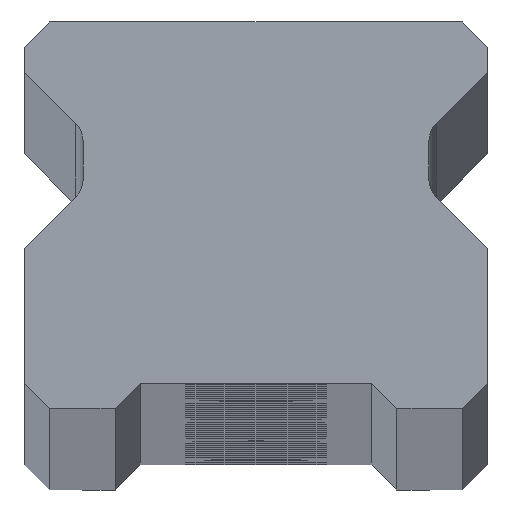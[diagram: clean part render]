
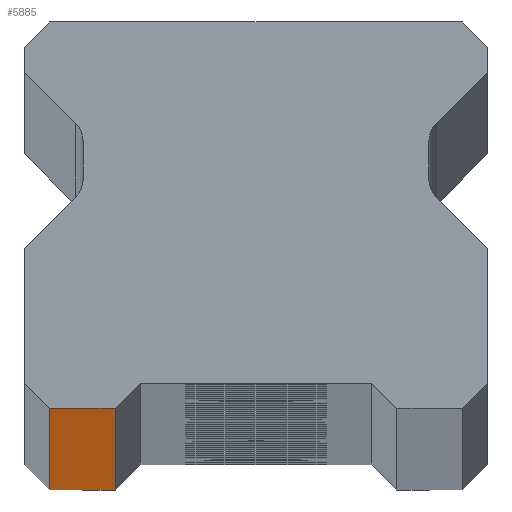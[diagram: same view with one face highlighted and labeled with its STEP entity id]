
A CAD part, top view. The second image highlights one B-rep face of the part: STEP entity #5885.
In plain terms, the highlighted planar face has unit normal (0, -1, 0).
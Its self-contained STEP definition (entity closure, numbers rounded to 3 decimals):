
#81 = EDGE_CURVE ( 'NONE', #5162, #5765, #6331, .T. ) ;
#205 = LINE ( 'NONE', #6158, #4273 ) ;
#389 = LINE ( 'NONE', #6592, #5724 ) ;
#837 = FACE_OUTER_BOUND ( 'NONE', #3946, .T. ) ;
#1169 = DIRECTION ( 'NONE',  ( 0., 0., -1. ) ) ;
#1484 = DIRECTION ( 'NONE',  ( 1., 0., 0. ) ) ;
#1501 = CARTESIAN_POINT ( 'NONE',  ( 11.5, 0., -1160. ) ) ;
#1590 = ORIENTED_EDGE ( 'NONE', *, *, #1768, .T. ) ;
#1753 = CARTESIAN_POINT ( 'NONE',  ( 11.5, 0., 1160. ) ) ;
#1768 = EDGE_CURVE ( 'NONE', #6890, #5765, #389, .T. ) ;
#1905 = CARTESIAN_POINT ( 'NONE',  ( -7., 0., -1160. ) ) ;
#2038 = ORIENTED_EDGE ( 'NONE', *, *, #81, .F. ) ;
#2625 = CARTESIAN_POINT ( 'NONE',  ( -7., 0., 1160. ) ) ;
#2850 = DIRECTION ( 'NONE',  ( 1., 0., 0. ) ) ;
#2947 = EDGE_CURVE ( 'NONE', #5162, #2967, #205, .T. ) ;
#2967 = VERTEX_POINT ( 'NONE', #3193 ) ;
#3027 = ORIENTED_EDGE ( 'NONE', *, *, #5022, .T. ) ;
#3193 = CARTESIAN_POINT ( 'NONE',  ( -10.25, 0., -1160. ) ) ;
#3668 = VECTOR ( 'NONE', #1484, 1000. ) ;
#3898 = DIRECTION ( 'NONE',  ( -1., 0., 0. ) ) ;
#3946 = EDGE_LOOP ( 'NONE', ( #3027, #1590, #2038, #4359 ) ) ;
#4249 = LINE ( 'NONE', #1501, #3668 ) ;
#4273 = VECTOR ( 'NONE', #1169, 1000. ) ;
#4359 = ORIENTED_EDGE ( 'NONE', *, *, #2947, .T. ) ;
#4469 = PLANE ( 'NONE',  #5331 ) ;
#4852 = CARTESIAN_POINT ( 'NONE',  ( -10.25, 0., 1160. ) ) ;
#5022 = EDGE_CURVE ( 'NONE', #2967, #6890, #4249, .T. ) ;
#5065 = DIRECTION ( 'NONE',  ( 0., 0., 1. ) ) ;
#5162 = VERTEX_POINT ( 'NONE', #4852 ) ;
#5331 = AXIS2_PLACEMENT_3D ( 'NONE', #1753, #6521, #3898 ) ;
#5514 = CARTESIAN_POINT ( 'NONE',  ( 11.5, 0., 1160. ) ) ;
#5724 = VECTOR ( 'NONE', #5065, 1000. ) ;
#5765 = VERTEX_POINT ( 'NONE', #2625 ) ;
#5830 = VECTOR ( 'NONE', #2850, 1000. ) ;
#5885 = ADVANCED_FACE ( 'NONE', ( #837 ), #4469, .F. ) ;
#6158 = CARTESIAN_POINT ( 'NONE',  ( -10.25, 0., 1160. ) ) ;
#6331 = LINE ( 'NONE', #5514, #5830 ) ;
#6521 = DIRECTION ( 'NONE',  ( 0., 1., 0. ) ) ;
#6592 = CARTESIAN_POINT ( 'NONE',  ( -7., 0., -1160. ) ) ;
#6890 = VERTEX_POINT ( 'NONE', #1905 ) ;
